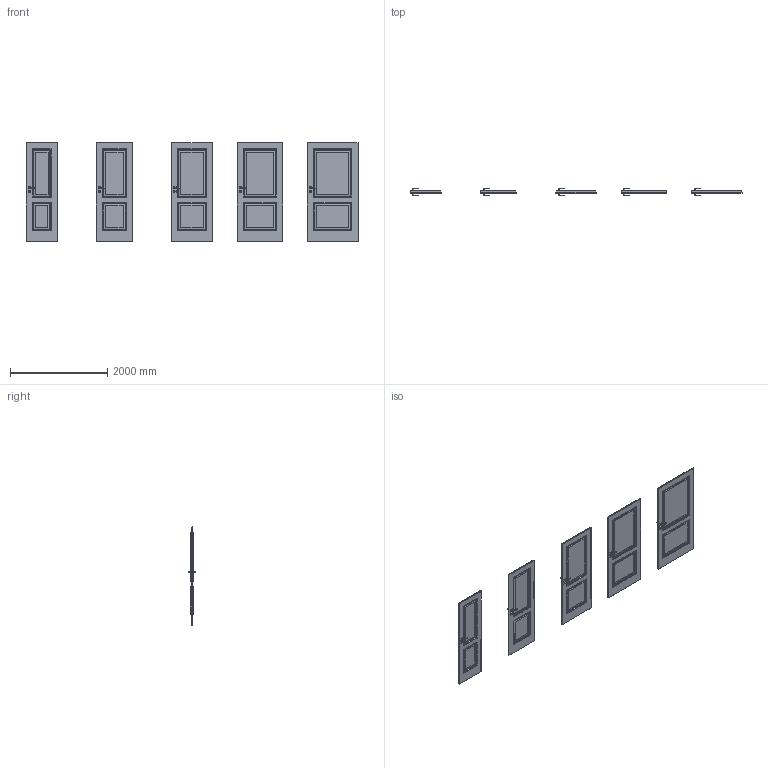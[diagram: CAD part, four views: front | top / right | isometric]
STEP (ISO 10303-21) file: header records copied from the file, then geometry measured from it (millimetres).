
FILE_DESCRIPTION(/* description */ (''),/* implementation_level */ '2;1');
FILE_NAME(/* name */ '049922_A_3-Skrzydło NOVA model 3.1_ polska norma _PN__ przylgowe..stp',/* time_stamp */ '2024-11-05T11:18:33+01:00',/* author */ (''),/* organization */ (''),/* preprocessor_version */ 'ST-DEVELOPER v16',/* originating_system */ 'SIEMENS PLM Software NX 11.0',/* authorisation */ '');
FILE_SCHEMA (('AUTOMOTIVE_DESIGN { 1 0 10303 214 3 1 1 1 }'));
Products named in the file (1): bkni379022B9gyul
Bounding box: 6844 x 153.13 x 2030 mm (x, y, z)
Volume: 227768890.3 mm3; surface area: 21787318.3 mm2
Topology: 25 solids, 25 shells, 2320 faces, 5643 edges, 3233 vertices
Faces by surface type: plane 1235, bspline 685, cylinder 260, sphere 140
Entity records: 99061 total; most frequent: CARTESIAN_POINT 50380, ORIENTED_EDGE 11006, DIRECTION 8046, EDGE_CURVE 5503, LINE 3414, VECTOR 3414, VERTEX_POINT 3233, EDGE_LOOP 2490
